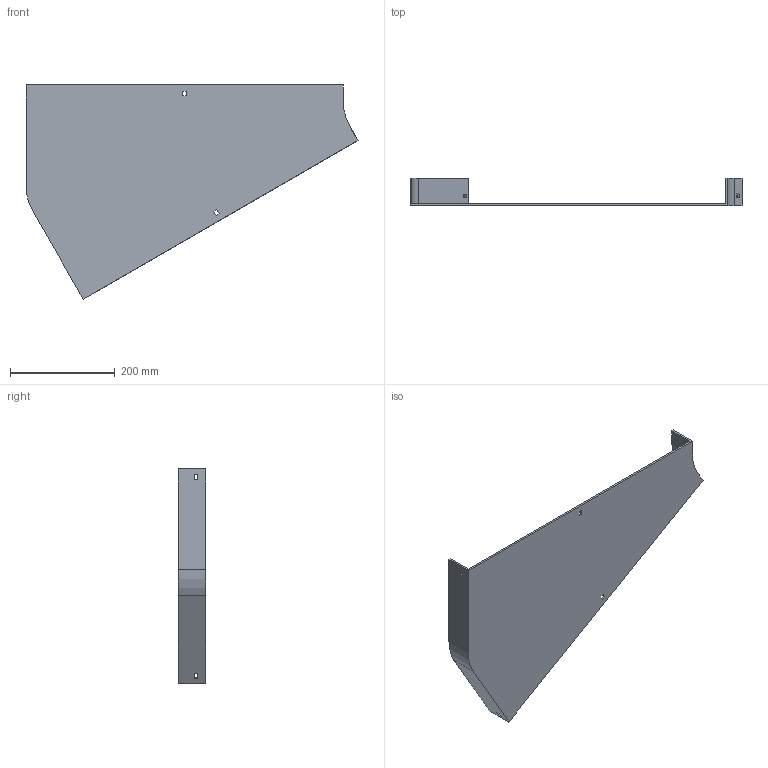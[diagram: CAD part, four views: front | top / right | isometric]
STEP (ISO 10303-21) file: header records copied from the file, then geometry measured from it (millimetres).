
FILE_DESCRIPTION (( 'STEP AP214' ), '1' );
FILE_NAME ('12F1B600.step', '2025-02-21T12:54:21', ( '' ), ( '' ), 'SwSTEP 2.0', 'SolidWorks 2023', '' );
FILE_SCHEMA (( 'AUTOMOTIVE_DESIGN' ));
Length unit declared in the file: millimetre
Products named in the file (1): 12F1B600
Bounding box: 632.4 x 52 x 407.98 mm (x, y, z)
Volume: 673963.3 mm3; surface area: 392641.3 mm2
Topology: 1 solids, 1 shells, 42 faces, 120 edges, 80 vertices
Faces by surface type: plane 38, cylinder 4
Entity records: 1399 total; most frequent: CARTESIAN_POINT 243, ORIENTED_EDGE 240, DIRECTION 214, EDGE_CURVE 120, VECTOR 112, LINE 112, VERTEX_POINT 80, EDGE_LOOP 54
